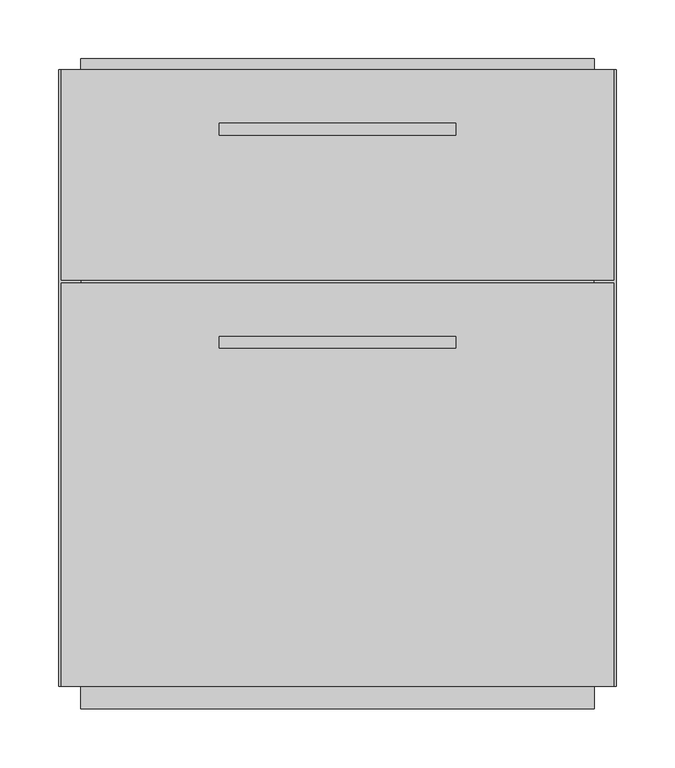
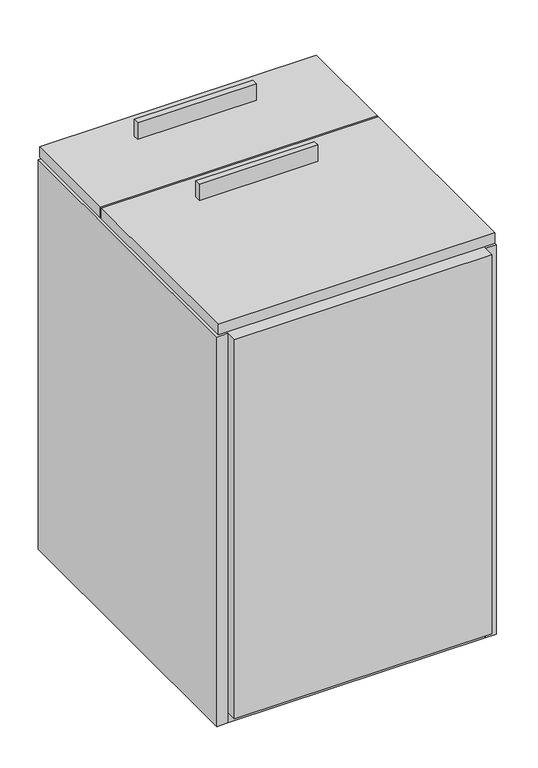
"""IFC4 building model written with IfcOpenShell, lengths in millimetres: proxy geometry, BASYS^OFFICE 7_24 DEEP PED_LEGAL BF PED."""

from ifc_helpers import new_model, si_unit, frame, origin, place, context, project, spatial, polyline, outline, extrude, source, transform, mapped, element, save


def generic_models_cfd542b2(model_context):
    return source(origin(), model_context, "Body", "SweptSolid", [
        extrude(outline(polyline([(-269.8942057, 147.7683988), (-67.8942057, 147.7683988), (-67.8942057, 137.7683988), (-269.8942057, 137.7683988), (-269.8942057, 147.7683988)])), frame((0.0, 0.0, 304.8), z_axis=(0.0, 0.0, 1.0), x_axis=(1.0, 0.0, 0.0)), (0.0, 0.0, 1.0), 30.0),
        extrude(outline(polyline([(-387.9692057, 174.5183988), (-387.9692057, 203.0933988), (50.1807943, 203.0933988), (50.1807943, 174.5183988), (-387.9692057, 174.5183988)])), frame((0.0, 0.0, -400.05), z_axis=(0.0, 0.0, 1.0), x_axis=(1.0, 0.0, 0.0)), (0.0, 0.0, 1.0), 682.625),
        extrude(outline(polyline([(-387.9692057, 193.5683988), (-387.9692057, -333.4816012), (-407.0192057, -333.4816012), (-407.0192057, 193.5683988), (-387.9692057, 193.5683988)])), frame((0.0, 0.0, -419.1), z_axis=(0.0, 0.0, 1.0), x_axis=(1.0, 0.0, 0.0)), (0.0, 0.0, 1.0), 701.675),
        extrude(outline(polyline([(66.8495443, 193.5683988), (66.8495443, 13.7840238), (-404.6379557, 13.7840238), (-404.6379557, 193.5683988), (66.8495443, 193.5683988)])), frame((0.0, 0.0, 285.75), z_axis=(0.0, 0.0, 1.0), x_axis=(1.0, 0.0, 0.0)), (0.0, 0.0, 1.0), 19.05),
        extrude(outline(polyline([(-404.6379557, 11.4027738), (66.8495443, 11.4027738), (66.8495443, -333.4816012), (-404.6379557, -333.4816012), (-404.6379557, 11.4027738)])), frame((0.0, 0.0, 285.75), z_axis=(0.0, 0.0, 1.0), x_axis=(1.0, 0.0, 0.0)), (0.0, 0.0, 1.0), 19.05),
        extrude(outline(polyline([(50.1807943, -314.4316012), (50.1807943, -352.5316012), (-387.9692057, -352.5316012), (-387.9692057, -314.4316012), (50.1807943, -314.4316012)])), frame((0.0, 0.0, -400.05), z_axis=(0.0, 0.0, 1.0), x_axis=(1.0, 0.0, 0.0)), (0.0, 0.0, 1.0), 682.625),
        extrude(outline(polyline([(50.1807943, -333.4816012), (50.1807943, 193.5683988), (69.2307943, 193.5683988), (69.2307943, -333.4816012), (50.1807943, -333.4816012)])), frame((0.0, 0.0, -419.1), z_axis=(0.0, 0.0, 1.0), x_axis=(1.0, 0.0, 0.0)), (0.0, 0.0, 1.0), 701.675),
        extrude(outline(polyline([(50.1807943, 193.5683988), (50.1807943, -333.4816012), (-387.9692057, -333.4816012), (-387.9692057, 193.5683988), (50.1807943, 193.5683988)])), frame((0.0, 0.0, -419.1), z_axis=(0.0, 0.0, 1.0), x_axis=(1.0, 0.0, 0.0)), (0.0, 0.0, 1.0), 19.05),
        extrude(outline(polyline([(-269.8942057, -34.3972262), (-67.8942057, -34.3972262), (-67.8942057, -44.3972262), (-269.8942057, -44.3972262), (-269.8942057, -34.3972262)])), frame((0.0, 0.0, 304.8), z_axis=(0.0, 0.0, 1.0), x_axis=(1.0, 0.0, 0.0)), (0.0, 0.0, 1.0), 30.0),
    ])


if __name__ == "__main__":
    model = new_model("IFC4")
    model_context = context("Model", 3, world=origin())
    ifc_project = project(units=[si_unit("LENGTHUNIT", "METRE", prefix="MILLI")], contexts=[model_context])
    site = spatial("IfcSite", under=ifc_project)
    building = spatial("IfcBuilding", under=site)
    placement = place(None, origin())
    generic_models_shape = generic_models_cfd542b2(model_context)
    element("IfcBuildingElementProxy", 1, Name="BASYS^OFFICE 7_24 DEEP PED_LEGAL BF PED", ObjectType="BASYS^OFFICE 7_24 DEEP PED_LEGAL BF PED", at=placement, inside=building, context=model_context, shape_type="MappedRepresentation", body=[
        mapped(generic_models_shape, transform((0.0, 0.0, 0.0), x_axis=(1.0, 0.0, 0.0), y_axis=(0.0, 1.0, 0.0), z_axis=(0.0, 0.0, 1.0))),
    ])
    save(model, "model.ifc")
